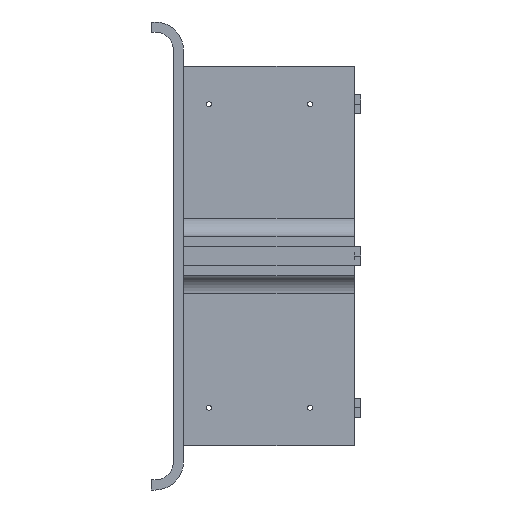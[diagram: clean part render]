
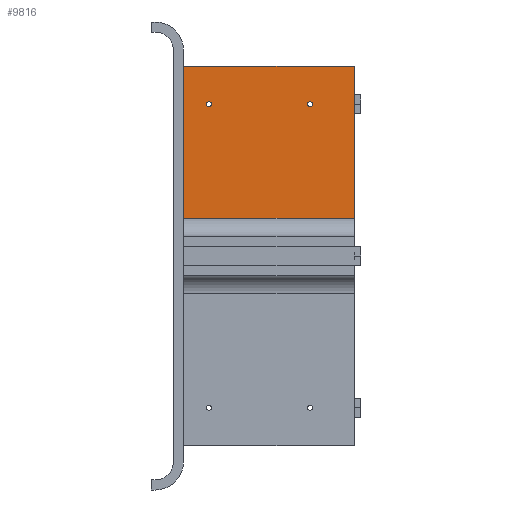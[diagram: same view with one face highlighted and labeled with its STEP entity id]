
A CAD part, left-side view. The second image highlights one B-rep face of the part: STEP entity #9816.
In plain terms, the highlighted planar face has unit normal (-1, 0, 0).
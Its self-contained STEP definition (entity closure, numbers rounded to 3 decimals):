
#27 = AXIS2_PLACEMENT_3D ( 'NONE', #8338, #10540, #8166 ) ;
#182 = DIRECTION ( 'NONE',  ( 1., 0., 0. ) ) ;
#922 = AXIS2_PLACEMENT_3D ( 'NONE', #7787, #6566, #10008 ) ;
#954 = LINE ( 'NONE', #2515, #12890 ) ;
#1029 = ORIENTED_EDGE ( 'NONE', *, *, #5465, .T. ) ;
#1036 = CARTESIAN_POINT ( 'NONE',  ( 413., -40., 244. ) ) ;
#1211 = DIRECTION ( 'NONE',  ( 0., 0., 1. ) ) ;
#1252 = CARTESIAN_POINT ( 'NONE',  ( 413., 0., 60. ) ) ;
#1492 = LINE ( 'NONE', #4038, #7241 ) ;
#1598 = CIRCLE ( 'NONE', #27, 4. ) ;
#1777 = ORIENTED_EDGE ( 'NONE', *, *, #14512, .T. ) ;
#1973 = CARTESIAN_POINT ( 'NONE',  ( 413., 0., 300. ) ) ;
#2025 = ORIENTED_EDGE ( 'NONE', *, *, #5700, .T. ) ;
#2515 = CARTESIAN_POINT ( 'NONE',  ( 413., 0., 60. ) ) ;
#2756 = CIRCLE ( 'NONE', #11939, 4. ) ;
#2774 = FACE_OUTER_BOUND ( 'NONE', #13592, .T. ) ;
#3348 = VERTEX_POINT ( 'NONE', #10434 ) ;
#3421 = CARTESIAN_POINT ( 'NONE',  ( 413., -200., 236. ) ) ;
#3506 = DIRECTION ( 'NONE',  ( 0., 0., -1. ) ) ;
#3578 = DIRECTION ( 'NONE',  ( 1., 0., 0. ) ) ;
#3788 = VERTEX_POINT ( 'NONE', #9038 ) ;
#4034 = EDGE_CURVE ( 'NONE', #11376, #9515, #14412, .T. ) ;
#4038 = CARTESIAN_POINT ( 'NONE',  ( 413., 0., 300. ) ) ;
#4072 = ORIENTED_EDGE ( 'NONE', *, *, #10210, .T. ) ;
#4274 = DIRECTION ( 'NONE',  ( 0., -1., 0. ) ) ;
#4462 = ORIENTED_EDGE ( 'NONE', *, *, #10230, .F. ) ;
#4461 = VERTEX_POINT ( 'NONE', #1036 ) ;
#4996 = PLANE ( 'NONE',  #922 ) ;
#5073 = FACE_BOUND ( 'NONE', #13560, .T. ) ;
#5178 = CIRCLE ( 'NONE', #12016, 4. ) ;
#5434 = CARTESIAN_POINT ( 'NONE',  ( 413., -270., 300. ) ) ;
#5442 = DIRECTION ( 'NONE',  ( 0., 0., -1. ) ) ;
#5446 = CARTESIAN_POINT ( 'NONE',  ( 413., -40., 240. ) ) ;
#5465 = EDGE_CURVE ( 'NONE', #10057, #14480, #954, .T. ) ;
#5700 = EDGE_CURVE ( 'NONE', #9515, #11376, #1598, .T. ) ;
#5980 = LINE ( 'NONE', #10983, #15401 ) ;
#6056 = DIRECTION ( 'NONE',  ( 0., -1., 0. ) ) ;
#6217 = CARTESIAN_POINT ( 'NONE',  ( 413., -40., 240. ) ) ;
#6566 = DIRECTION ( 'NONE',  ( -1., 0., 0. ) ) ;
#7241 = VECTOR ( 'NONE', #5442, 1000. ) ;
#7449 = DIRECTION ( 'NONE',  ( 0., 0., 1. ) ) ;
#7470 = EDGE_LOOP ( 'NONE', ( #1777, #13591 ) ) ;
#7787 = CARTESIAN_POINT ( 'NONE',  ( 413., 0., 300. ) ) ;
#7815 = VERTEX_POINT ( 'NONE', #5434 ) ;
#7912 = CARTESIAN_POINT ( 'NONE',  ( 413., -270., 60. ) ) ;
#8166 = DIRECTION ( 'NONE',  ( 0., 0., 1. ) ) ;
#8338 = CARTESIAN_POINT ( 'NONE',  ( 413., -200., 240. ) ) ;
#8413 = EDGE_CURVE ( 'NONE', #3348, #4461, #2756, .T. ) ;
#9025 = FACE_BOUND ( 'NONE', #7470, .T. ) ;
#9038 = CARTESIAN_POINT ( 'NONE',  ( 413., 0., 300. ) ) ;
#9296 = LINE ( 'NONE', #1973, #11437 ) ;
#9515 = VERTEX_POINT ( 'NONE', #13318 ) ;
#9816 = ADVANCED_FACE ( 'NONE', ( #9025, #5073, #2774 ), #4996, .T. ) ;
#9821 = ORIENTED_EDGE ( 'NONE', *, *, #4034, .T. ) ;
#9844 = ORIENTED_EDGE ( 'NONE', *, *, #13774, .F. ) ;
#9845 = CARTESIAN_POINT ( 'NONE',  ( 413., -200., 240. ) ) ;
#10008 = DIRECTION ( 'NONE',  ( 0., 0., 1. ) ) ;
#10057 = VERTEX_POINT ( 'NONE', #1252 ) ;
#10076 = DIRECTION ( 'NONE',  ( 1., 0., 0. ) ) ;
#10210 = EDGE_CURVE ( 'NONE', #3788, #10057, #1492, .T. ) ;
#10230 = EDGE_CURVE ( 'NONE', #3788, #7815, #9296, .T. ) ;
#10434 = CARTESIAN_POINT ( 'NONE',  ( 413., -40., 236. ) ) ;
#10526 = DIRECTION ( 'NONE',  ( 0., 0., 1. ) ) ;
#10540 = DIRECTION ( 'NONE',  ( 1., 0., 0. ) ) ;
#10983 = CARTESIAN_POINT ( 'NONE',  ( 413., -270., 300. ) ) ;
#10987 = AXIS2_PLACEMENT_3D ( 'NONE', #9845, #10076, #1211 ) ;
#11376 = VERTEX_POINT ( 'NONE', #3421 ) ;
#11437 = VECTOR ( 'NONE', #4274, 1000. ) ;
#11939 = AXIS2_PLACEMENT_3D ( 'NONE', #6217, #3578, #7449 ) ;
#12016 = AXIS2_PLACEMENT_3D ( 'NONE', #5446, #182, #10526 ) ;
#12890 = VECTOR ( 'NONE', #6056, 1000. ) ;
#13318 = CARTESIAN_POINT ( 'NONE',  ( 413., -200., 244. ) ) ;
#13560 = EDGE_LOOP ( 'NONE', ( #2025, #9821 ) ) ;
#13591 = ORIENTED_EDGE ( 'NONE', *, *, #8413, .T. ) ;
#13592 = EDGE_LOOP ( 'NONE', ( #4072, #1029, #9844, #4462 ) ) ;
#13774 = EDGE_CURVE ( 'NONE', #7815, #14480, #5980, .T. ) ;
#14412 = CIRCLE ( 'NONE', #10987, 4. ) ;
#14480 = VERTEX_POINT ( 'NONE', #7912 ) ;
#14512 = EDGE_CURVE ( 'NONE', #4461, #3348, #5178, .T. ) ;
#15401 = VECTOR ( 'NONE', #3506, 1000. ) ;
